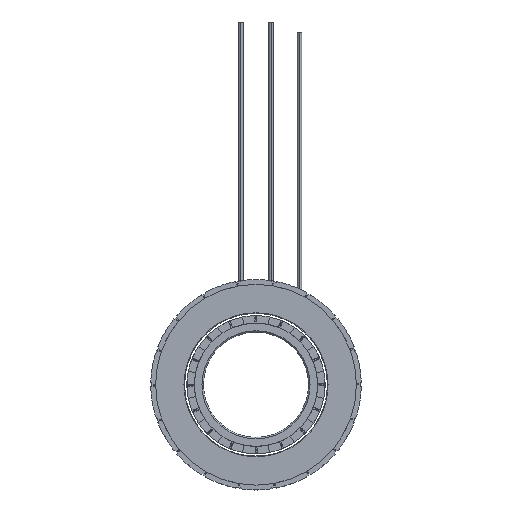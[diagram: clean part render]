
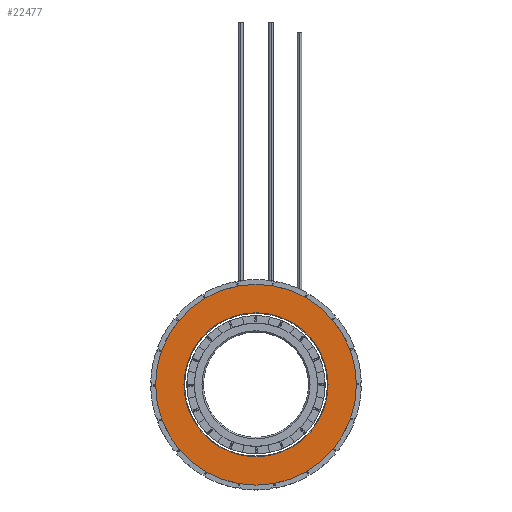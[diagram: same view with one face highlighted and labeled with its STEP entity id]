
A CAD part, top view. The second image highlights one B-rep face of the part: STEP entity #22477.
In plain terms, the highlighted planar face has unit normal (0, 0, 1).
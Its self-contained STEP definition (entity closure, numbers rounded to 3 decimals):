
#27 = EDGE_CURVE ( 'NONE', #33011, #19199, #16640, .T. ) ;
#258 = CARTESIAN_POINT ( 'NONE',  ( 0., 0., 0. ) ) ;
#2379 = ORIENTED_EDGE ( 'NONE', *, *, #2519, .T. ) ;
#2417 = CARTESIAN_POINT ( 'NONE',  ( 0., 0., 0. ) ) ;
#2519 = EDGE_CURVE ( 'NONE', #19199, #33011, #23929, .T. ) ;
#3025 = EDGE_LOOP ( 'NONE', ( #23728, #24136 ) ) ;
#3585 = CIRCLE ( 'NONE', #17449, 26. ) ;
#4488 = CARTESIAN_POINT ( 'NONE',  ( 0., 0., 0. ) ) ;
#4695 = DIRECTION ( 'NONE',  ( 0., 0., 1. ) ) ;
#5577 = EDGE_CURVE ( 'NONE', #19077, #6279, #3585, .T. ) ;
#5779 = CARTESIAN_POINT ( 'NONE',  ( 0., 0., 0. ) ) ;
#6116 = CARTESIAN_POINT ( 'NONE',  ( -26., 0., 0. ) ) ;
#6279 = VERTEX_POINT ( 'NONE', #24805 ) ;
#6563 = CARTESIAN_POINT ( 'NONE',  ( 36.25, 0., 0. ) ) ;
#6956 = EDGE_CURVE ( 'NONE', #6279, #19077, #10295, .T. ) ;
#8741 = EDGE_LOOP ( 'NONE', ( #30852, #2379 ) ) ;
#9115 = DIRECTION ( 'NONE',  ( 0., 0., 1. ) ) ;
#10295 = CIRCLE ( 'NONE', #29718, 26. ) ;
#11800 = AXIS2_PLACEMENT_3D ( 'NONE', #14510, #9115, #22325 ) ;
#11850 = DIRECTION ( 'NONE',  ( 0., 0., 1. ) ) ;
#14160 = FACE_OUTER_BOUND ( 'NONE', #8741, .T. ) ;
#14338 = FACE_BOUND ( 'NONE', #3025, .T. ) ;
#14510 = CARTESIAN_POINT ( 'NONE',  ( 0., 0., 0. ) ) ;
#16142 = CARTESIAN_POINT ( 'NONE',  ( -36.25, 0., 0. ) ) ;
#16559 = DIRECTION ( 'NONE',  ( 1., 0., 0. ) ) ;
#16640 = CIRCLE ( 'NONE', #28844, 36.25 ) ;
#17449 = AXIS2_PLACEMENT_3D ( 'NONE', #4488, #31082, #17855 ) ;
#17855 = DIRECTION ( 'NONE',  ( 1., 0., 0. ) ) ;
#19077 = VERTEX_POINT ( 'NONE', #6116 ) ;
#19199 = VERTEX_POINT ( 'NONE', #16142 ) ;
#22145 = AXIS2_PLACEMENT_3D ( 'NONE', #2417, #4695, #25541 ) ;
#22325 = DIRECTION ( 'NONE',  ( 1., 0., 0. ) ) ;
#22477 = ADVANCED_FACE ( 'NONE', ( #14338, #14160 ), #24935, .T. ) ;
#23728 = ORIENTED_EDGE ( 'NONE', *, *, #6956, .F. ) ;
#23929 = CIRCLE ( 'NONE', #22145, 36.25 ) ;
#24136 = ORIENTED_EDGE ( 'NONE', *, *, #5577, .F. ) ;
#24805 = CARTESIAN_POINT ( 'NONE',  ( 26., 0., 0. ) ) ;
#24935 = PLANE ( 'NONE',  #11800 ) ;
#25541 = DIRECTION ( 'NONE',  ( 1., 0., 0. ) ) ;
#28844 = AXIS2_PLACEMENT_3D ( 'NONE', #258, #29460, #29634 ) ;
#29460 = DIRECTION ( 'NONE',  ( 0., 0., 1. ) ) ;
#29634 = DIRECTION ( 'NONE',  ( 1., 0., 0. ) ) ;
#29718 = AXIS2_PLACEMENT_3D ( 'NONE', #5779, #11850, #16559 ) ;
#30852 = ORIENTED_EDGE ( 'NONE', *, *, #27, .T. ) ;
#31082 = DIRECTION ( 'NONE',  ( 0., 0., 1. ) ) ;
#33011 = VERTEX_POINT ( 'NONE', #6563 ) ;
